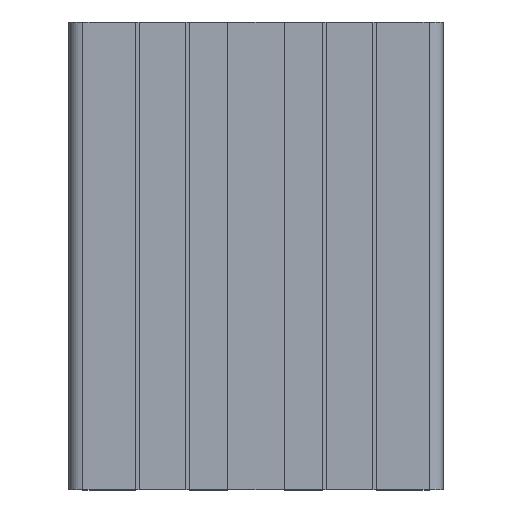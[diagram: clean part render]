
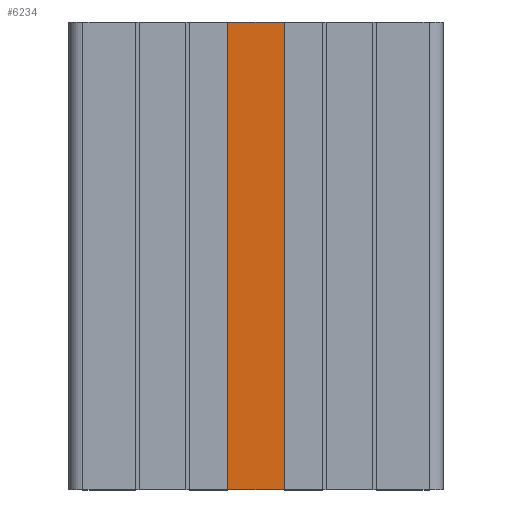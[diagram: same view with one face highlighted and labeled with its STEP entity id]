
A CAD part, top view. The second image highlights one B-rep face of the part: STEP entity #6234.
In plain terms, the highlighted planar face has unit normal (0, 0, 1).
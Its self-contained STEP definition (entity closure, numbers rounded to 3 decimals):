
#288 = CARTESIAN_POINT ( 'NONE',  ( -6., 50., 19. ) ) ;
#318 = AXIS2_PLACEMENT_3D ( 'NONE', #962, #6818, #2517 ) ;
#379 = VERTEX_POINT ( 'NONE', #1295 ) ;
#526 = FACE_OUTER_BOUND ( 'NONE', #6219, .T. ) ;
#962 = CARTESIAN_POINT ( 'NONE',  ( -6., 50., 19. ) ) ;
#1057 = CARTESIAN_POINT ( 'NONE',  ( -6., 50., 19. ) ) ;
#1230 = ORIENTED_EDGE ( 'NONE', *, *, #4546, .T. ) ;
#1295 = CARTESIAN_POINT ( 'NONE',  ( -6., 50., 19. ) ) ;
#1548 = PLANE ( 'NONE',  #318 ) ;
#1670 = VERTEX_POINT ( 'NONE', #2834 ) ;
#1697 = ORIENTED_EDGE ( 'NONE', *, *, #6673, .F. ) ;
#2065 = LINE ( 'NONE', #2489, #6163 ) ;
#2208 = VECTOR ( 'NONE', #2650, 1000. ) ;
#2489 = CARTESIAN_POINT ( 'NONE',  ( -6., -50., 19. ) ) ;
#2501 = EDGE_CURVE ( 'NONE', #379, #3661, #3715, .T. ) ;
#2517 = DIRECTION ( 'NONE',  ( -1., 0., 0. ) ) ;
#2577 = CARTESIAN_POINT ( 'NONE',  ( 6., 50., 19. ) ) ;
#2650 = DIRECTION ( 'NONE',  ( 0., -1., 0. ) ) ;
#2834 = CARTESIAN_POINT ( 'NONE',  ( -6., -50., 19. ) ) ;
#2903 = LINE ( 'NONE', #288, #4183 ) ;
#2931 = CARTESIAN_POINT ( 'NONE',  ( 6., -50., 19. ) ) ;
#3130 = VERTEX_POINT ( 'NONE', #2931 ) ;
#3660 = DIRECTION ( 'NONE',  ( 1., 0., 0. ) ) ;
#3661 = VERTEX_POINT ( 'NONE', #6002 ) ;
#3715 = LINE ( 'NONE', #1057, #4841 ) ;
#3792 = DIRECTION ( 'NONE',  ( 1., 0., 0. ) ) ;
#4183 = VECTOR ( 'NONE', #5063, 1000. ) ;
#4546 = EDGE_CURVE ( 'NONE', #1670, #3130, #2065, .T. ) ;
#4841 = VECTOR ( 'NONE', #3792, 1000. ) ;
#5063 = DIRECTION ( 'NONE',  ( 0., -1., 0. ) ) ;
#5639 = ORIENTED_EDGE ( 'NONE', *, *, #6489, .T. ) ;
#5774 = LINE ( 'NONE', #2577, #2208 ) ;
#6002 = CARTESIAN_POINT ( 'NONE',  ( 6., 50., 19. ) ) ;
#6163 = VECTOR ( 'NONE', #3660, 1000. ) ;
#6219 = EDGE_LOOP ( 'NONE', ( #1230, #1697, #6396, #5639 ) ) ;
#6234 = ADVANCED_FACE ( 'NONE', ( #526 ), #1548, .F. ) ;
#6396 = ORIENTED_EDGE ( 'NONE', *, *, #2501, .F. ) ;
#6489 = EDGE_CURVE ( 'NONE', #379, #1670, #2903, .T. ) ;
#6673 = EDGE_CURVE ( 'NONE', #3661, #3130, #5774, .T. ) ;
#6818 = DIRECTION ( 'NONE',  ( 0., 0., -1. ) ) ;
